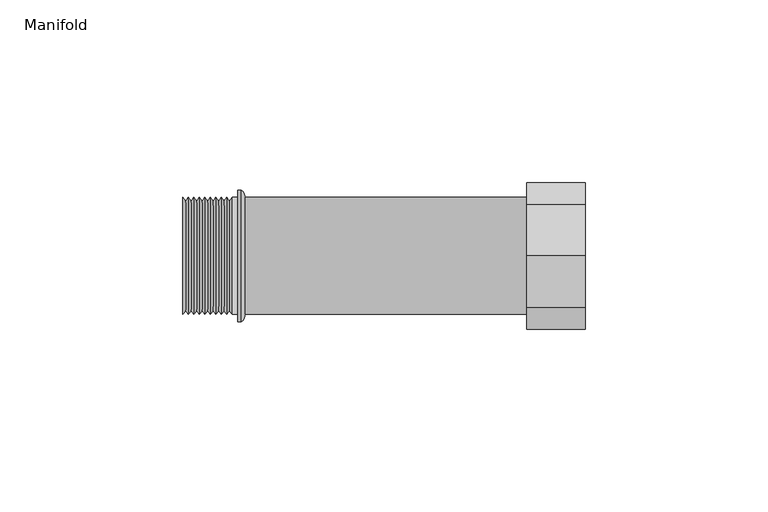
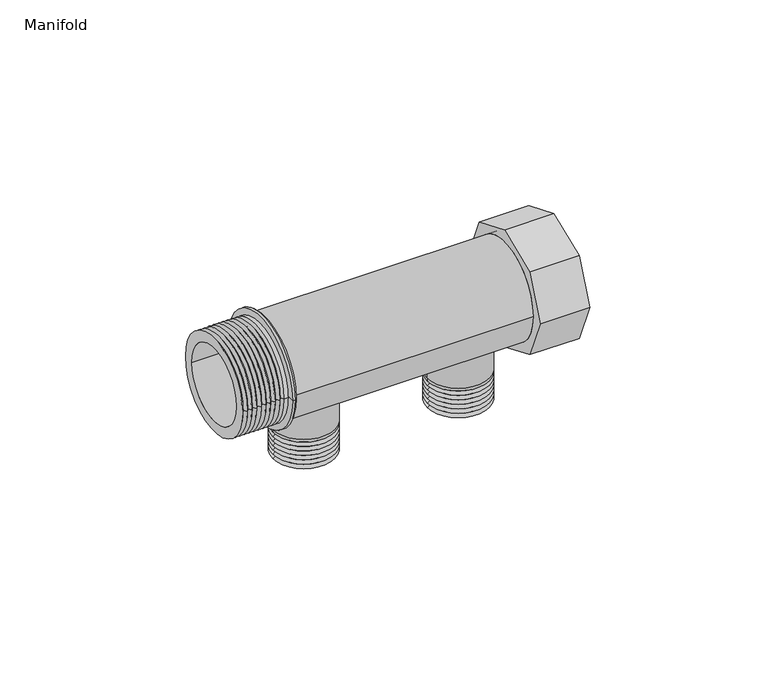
"""IFC4 building model written with IfcOpenShell, lengths in millimetres: valve geometry."""

from ifc_helpers import new_model, si_unit, point, frame, frame_2d, origin, origin_2d, place, context, project, spatial, polyline, circle_curve, ellipse_curve, trimmed, segment, composite_curve, outline, extrude, source, transform, mapped, element, save
from ifc_brep_helpers import plane_surface, cylinder_surface, revolved_surface, advanced_brep


def manifold_baea2700(model_context):
    return source(origin(), model_context, "Body", "SolidModel", [
        extrude(outline(composite_curve([segment(trimmed(circle_curve(frame_2d((79.0, 0.0)), 10.0), [point((69.0, 0.0))], [point((89.0, 0.0))], False, "CARTESIAN"), True, "CONTINUOUS"), segment(trimmed(circle_curve(frame_2d((79.0, 0.0)), 10.0), [point((89.0, 0.0))], [point((69.0, 0.0))], False, "CARTESIAN"), True, "CONTINUOUS")], self_intersect=False)), frame((0.0, 0.0, -22.0), z_axis=(0.0, 0.0, 1.0), x_axis=(1.0, 0.0, 0.0)), (0.0, 0.0, 1.0), 22.0),
        advanced_brep(
        [(69.0, 0.0, -32.0), (89.0, 0.0, -32.0), (79.0, 0.0, -32.0), (79.0, 0.0, -22.0), (89.0, 0.0, -22.0), (69.0, 0.0, -22.0), (70.0, 0.0, -31.2403523), (88.0, 0.0, -31.2403523), (69.0, 0.0, -30.4807046), (89.0, 0.0, -30.4807046), (70.0, 0.0, -29.721057), (88.0, 0.0, -29.721057), (69.0, 0.0, -28.9614093), (89.0, 0.0, -28.9614093), (70.0, 0.0, -28.2017616), (88.0, 0.0, -28.2017616), (69.0, 0.0, -27.4421139), (89.0, 0.0, -27.4421139), (70.0, 0.0, -26.6824663), (88.0, 0.0, -26.6824663), (69.0, 0.0, -25.9228186), (89.0, 0.0, -25.9228186), (70.0, 0.0, -25.1631709), (88.0, 0.0, -25.1631709), (69.0, 0.0, -24.4035232), (89.0, 0.0, -24.4035232), (70.0, 0.0, -23.6438756), (88.0, 0.0, -23.6438756), (69.0, 0.0, -22.8842279), (89.0, 0.0, -22.8842279)],
        [
            (0, 1, circle_curve(frame((79.0, 0.0, -32.0), z_axis=(0.0, 0.0, -1.0), x_axis=(1.0, 0.0, 0.0)), 10.0)),
            (1, 2),
            (2, 0),
            (1, 0, circle_curve(frame((79.0, 0.0, -32.0), z_axis=(0.0, 0.0, -1.0), x_axis=(1.0, 0.0, 0.0)), 10.0)),
            (3, 4),
            (4, 5, circle_curve(frame((79.0, 0.0, -22.0), z_axis=(0.0, 0.0, 1.0), x_axis=(1.0, 0.0, 0.0)), 10.0)),
            (5, 3),
            (5, 4, circle_curve(frame((79.0, 0.0, -22.0), z_axis=(0.0, 0.0, 1.0), x_axis=(1.0, 0.0, 0.0)), 10.0)),
            (6, 7, circle_curve(frame((79.0, 0.0, -31.2403523), z_axis=(0.0, 0.0, -1.0), x_axis=(1.0, 0.0, 0.0)), 9.0)),
            (7, 1),
            (0, 6),
            (7, 6, circle_curve(frame((79.0, 0.0, -31.2403523), z_axis=(0.0, 0.0, -1.0), x_axis=(1.0, 0.0, 0.0)), 9.0)),
            (8, 9, circle_curve(frame((79.0, 0.0, -30.4807046), z_axis=(0.0, 0.0, -1.0), x_axis=(1.0, 0.0, 0.0)), 10.0)),
            (9, 7),
            (6, 8),
            (9, 8, circle_curve(frame((79.0, 0.0, -30.4807046), z_axis=(0.0, 0.0, -1.0), x_axis=(1.0, 0.0, 0.0)), 10.0)),
            (10, 11, circle_curve(frame((79.0, 0.0, -29.721057), z_axis=(0.0, 0.0, -1.0), x_axis=(1.0, 0.0, 0.0)), 9.0)),
            (11, 9),
            (8, 10),
            (11, 10, circle_curve(frame((79.0, 0.0, -29.721057), z_axis=(0.0, 0.0, -1.0), x_axis=(1.0, 0.0, 0.0)), 9.0)),
            (12, 13, circle_curve(frame((79.0, 0.0, -28.9614093), z_axis=(0.0, 0.0, -1.0), x_axis=(1.0, 0.0, 0.0)), 10.0)),
            (13, 11),
            (10, 12),
            (13, 12, circle_curve(frame((79.0, 0.0, -28.9614093), z_axis=(0.0, 0.0, -1.0), x_axis=(1.0, 0.0, 0.0)), 10.0)),
            (14, 15, circle_curve(frame((79.0, 0.0, -28.2017616), z_axis=(0.0, 0.0, -1.0), x_axis=(1.0, 0.0, 0.0)), 9.0)),
            (15, 13),
            (12, 14),
            (15, 14, circle_curve(frame((79.0, 0.0, -28.2017616), z_axis=(0.0, 0.0, -1.0), x_axis=(1.0, 0.0, 0.0)), 9.0)),
            (16, 17, circle_curve(frame((79.0, 0.0, -27.4421139), z_axis=(0.0, 0.0, -1.0), x_axis=(1.0, 0.0, 0.0)), 10.0)),
            (17, 15),
            (14, 16),
            (17, 16, circle_curve(frame((79.0, 0.0, -27.4421139), z_axis=(0.0, 0.0, -1.0), x_axis=(1.0, 0.0, 0.0)), 10.0)),
            (18, 19, circle_curve(frame((79.0, 0.0, -26.6824663), z_axis=(0.0, 0.0, -1.0), x_axis=(1.0, 0.0, 0.0)), 9.0)),
            (19, 17),
            (16, 18),
            (19, 18, circle_curve(frame((79.0, 0.0, -26.6824663), z_axis=(0.0, 0.0, -1.0), x_axis=(1.0, 0.0, 0.0)), 9.0)),
            (20, 21, circle_curve(frame((79.0, 0.0, -25.9228186), z_axis=(0.0, 0.0, -1.0), x_axis=(1.0, 0.0, 0.0)), 10.0)),
            (21, 19),
            (18, 20),
            (21, 20, circle_curve(frame((79.0, 0.0, -25.9228186), z_axis=(0.0, 0.0, -1.0), x_axis=(1.0, 0.0, 0.0)), 10.0)),
            (22, 23, circle_curve(frame((79.0, 0.0, -25.1631709), z_axis=(0.0, 0.0, -1.0), x_axis=(1.0, 0.0, 0.0)), 9.0)),
            (23, 21),
            (20, 22),
            (23, 22, circle_curve(frame((79.0, 0.0, -25.1631709), z_axis=(0.0, 0.0, -1.0), x_axis=(1.0, 0.0, 0.0)), 9.0)),
            (24, 25, circle_curve(frame((79.0, 0.0, -24.4035232), z_axis=(0.0, 0.0, -1.0), x_axis=(1.0, 0.0, 0.0)), 10.0)),
            (25, 23),
            (22, 24),
            (25, 24, circle_curve(frame((79.0, 0.0, -24.4035232), z_axis=(0.0, 0.0, -1.0), x_axis=(1.0, 0.0, 0.0)), 10.0)),
            (26, 27, circle_curve(frame((79.0, 0.0, -23.6438756), z_axis=(0.0, 0.0, -1.0), x_axis=(1.0, 0.0, 0.0)), 9.0)),
            (27, 25),
            (24, 26),
            (27, 26, circle_curve(frame((79.0, 0.0, -23.6438756), z_axis=(0.0, 0.0, -1.0), x_axis=(1.0, 0.0, 0.0)), 9.0)),
            (28, 29, circle_curve(frame((79.0, 0.0, -22.8842279), z_axis=(0.0, 0.0, -1.0), x_axis=(1.0, 0.0, 0.0)), 10.0)),
            (29, 27),
            (26, 28),
            (29, 28, circle_curve(frame((79.0, 0.0, -22.8842279), z_axis=(0.0, 0.0, -1.0), x_axis=(1.0, 0.0, 0.0)), 10.0)),
            (4, 29),
            (28, 5),
        ],
        [
            plane_surface(frame((79.0, 0.0, -32.0), z_axis=(0.0, 0.0, -1.0), x_axis=(1.0, 0.0, 0.0))),
            plane_surface(frame((79.0, 0.0, -22.0), z_axis=(0.0, 0.0, 1.0), x_axis=(1.0, 0.0, 0.0))),
            revolved_surface(polyline([(89.0, 0.0, -32.0), (88.0, 0.0, -31.2403523)]), (79.0, 0.0, 2438.4), (0.0, 0.0, 1.0)),
            revolved_surface(polyline([(88.0, 0.0, -31.2403523), (89.0, 0.0, -30.4807046)]), (79.0, 0.0, 2438.4), (0.0, 0.0, 1.0)),
            revolved_surface(polyline([(89.0, 0.0, -30.4807046), (88.0, 0.0, -29.721057)]), (79.0, 0.0, 2438.4), (0.0, 0.0, 1.0)),
            revolved_surface(polyline([(88.0, 0.0, -29.721057), (89.0, 0.0, -28.9614093)]), (79.0, 0.0, 2438.4), (0.0, 0.0, 1.0)),
            revolved_surface(polyline([(89.0, 0.0, -28.9614093), (88.0, 0.0, -28.2017616)]), (79.0, 0.0, 2438.4), (0.0, 0.0, 1.0)),
            revolved_surface(polyline([(88.0, 0.0, -28.2017616), (89.0, 0.0, -27.4421139)]), (79.0, 0.0, 2438.4), (0.0, 0.0, 1.0)),
            revolved_surface(polyline([(89.0, 0.0, -27.4421139), (88.0, 0.0, -26.6824663)]), (79.0, 0.0, 2438.4), (0.0, 0.0, 1.0)),
            revolved_surface(polyline([(88.0, 0.0, -26.6824663), (89.0, 0.0, -25.9228186)]), (79.0, 0.0, 2438.4), (0.0, 0.0, 1.0)),
            revolved_surface(polyline([(89.0, 0.0, -25.9228186), (88.0, 0.0, -25.1631709)]), (79.0, 0.0, 2438.4), (0.0, 0.0, 1.0)),
            revolved_surface(polyline([(88.0, 0.0, -25.1631709), (89.0, 0.0, -24.4035232)]), (79.0, 0.0, 2438.4), (0.0, 0.0, 1.0)),
            revolved_surface(polyline([(89.0, 0.0, -24.4035232), (88.0, 0.0, -23.6438756)]), (79.0, 0.0, 2438.4), (0.0, 0.0, 1.0)),
            revolved_surface(polyline([(88.0, 0.0, -23.6438756), (89.0, 0.0, -22.8842279)]), (79.0, 0.0, 2438.4), (0.0, 0.0, 1.0)),
            cylinder_surface(frame((79.0, 0.0, 2438.4), z_axis=(0.0, 0.0, 1.0), x_axis=(1.0, 0.0, 0.0)), 10.0),
        ],
        [
            (0, [[1, 2, 3]]),
            (0, [[4, -3, -2]]),
            (1, [[5, 6, 7]]),
            (1, [[-7, 8, -5]]),
            (2, [[9, 10, -1, 11]]),
            (2, [[12, -11, -4, -10]]),
            (3, [[13, 14, -9, 15]]),
            (3, [[16, -15, -12, -14]]),
            (4, [[17, 18, -13, 19]]),
            (4, [[20, -19, -16, -18]]),
            (5, [[21, 22, -17, 23]]),
            (5, [[24, -23, -20, -22]]),
            (6, [[25, 26, -21, 27]]),
            (6, [[28, -27, -24, -26]]),
            (7, [[29, 30, -25, 31]]),
            (7, [[32, -31, -28, -30]]),
            (8, [[33, 34, -29, 35]]),
            (8, [[36, -35, -32, -34]]),
            (9, [[37, 38, -33, 39]]),
            (9, [[40, -39, -36, -38]]),
            (10, [[41, 42, -37, 43]]),
            (10, [[44, -43, -40, -42]]),
            (11, [[45, 46, -41, 47]]),
            (11, [[48, -47, -44, -46]]),
            (12, [[49, 50, -45, 51]]),
            (12, [[52, -51, -48, -50]]),
            (13, [[53, 54, -49, 55]]),
            (13, [[56, -55, -52, -54]]),
            (14, [[-6, 57, -53, 58]]),
            (14, [[-8, -58, -56, -57]]),
        ],
    ),
        extrude(outline(composite_curve([segment(trimmed(circle_curve(frame_2d((29.0, 0.0)), 10.0), [point((19.0, 0.0))], [point((39.0, 0.0))], False, "CARTESIAN"), True, "CONTINUOUS"), segment(trimmed(circle_curve(frame_2d((29.0, 0.0)), 10.0), [point((39.0, 0.0))], [point((19.0, 0.0))], False, "CARTESIAN"), True, "CONTINUOUS")], self_intersect=False)), frame((0.0, 0.0, -22.0), z_axis=(0.0, 0.0, 1.0), x_axis=(1.0, 0.0, 0.0)), (0.0, 0.0, 1.0), 22.0),
        advanced_brep(
        [(19.0, 0.0, -32.0), (39.0, 0.0, -32.0), (29.0, 0.0, -32.0), (29.0, 0.0, -22.0), (39.0, 0.0, -22.0), (19.0, 0.0, -22.0), (20.0, 0.0, -31.2403523), (38.0, 0.0, -31.2403523), (19.0, 0.0, -30.4807046), (39.0, 0.0, -30.4807046), (20.0, 0.0, -29.721057), (38.0, 0.0, -29.721057), (19.0, 0.0, -28.9614093), (39.0, 0.0, -28.9614093), (20.0, 0.0, -28.2017616), (38.0, 0.0, -28.2017616), (19.0, 0.0, -27.4421139), (39.0, 0.0, -27.4421139), (20.0, 0.0, -26.6824663), (38.0, 0.0, -26.6824663), (19.0, 0.0, -25.9228186), (39.0, 0.0, -25.9228186), (20.0, 0.0, -25.1631709), (38.0, 0.0, -25.1631709), (19.0, 0.0, -24.4035232), (39.0, 0.0, -24.4035232), (20.0, 0.0, -23.6438756), (38.0, 0.0, -23.6438756), (19.0, 0.0, -22.8842279), (39.0, 0.0, -22.8842279)],
        [
            (0, 1, circle_curve(frame((29.0, 0.0, -32.0), z_axis=(0.0, 0.0, -1.0), x_axis=(1.0, 0.0, 0.0)), 10.0)),
            (1, 2),
            (2, 0),
            (1, 0, circle_curve(frame((29.0, 0.0, -32.0), z_axis=(0.0, 0.0, -1.0), x_axis=(1.0, 0.0, 0.0)), 10.0)),
            (3, 4),
            (4, 5, circle_curve(frame((29.0, 0.0, -22.0), z_axis=(0.0, 0.0, 1.0), x_axis=(1.0, 0.0, 0.0)), 10.0)),
            (5, 3),
            (5, 4, circle_curve(frame((29.0, 0.0, -22.0), z_axis=(0.0, 0.0, 1.0), x_axis=(1.0, 0.0, 0.0)), 10.0)),
            (6, 7, circle_curve(frame((29.0, 0.0, -31.2403523), z_axis=(0.0, 0.0, -1.0), x_axis=(1.0, 0.0, 0.0)), 9.0)),
            (7, 1),
            (0, 6),
            (7, 6, circle_curve(frame((29.0, 0.0, -31.2403523), z_axis=(0.0, 0.0, -1.0), x_axis=(1.0, 0.0, 0.0)), 9.0)),
            (8, 9, circle_curve(frame((29.0, 0.0, -30.4807046), z_axis=(0.0, 0.0, -1.0), x_axis=(1.0, 0.0, 0.0)), 10.0)),
            (9, 7),
            (6, 8),
            (9, 8, circle_curve(frame((29.0, 0.0, -30.4807046), z_axis=(0.0, 0.0, -1.0), x_axis=(1.0, 0.0, 0.0)), 10.0)),
            (10, 11, circle_curve(frame((29.0, 0.0, -29.721057), z_axis=(0.0, 0.0, -1.0), x_axis=(1.0, 0.0, 0.0)), 9.0)),
            (11, 9),
            (8, 10),
            (11, 10, circle_curve(frame((29.0, 0.0, -29.721057), z_axis=(0.0, 0.0, -1.0), x_axis=(1.0, 0.0, 0.0)), 9.0)),
            (12, 13, circle_curve(frame((29.0, 0.0, -28.9614093), z_axis=(0.0, 0.0, -1.0), x_axis=(1.0, 0.0, 0.0)), 10.0)),
            (13, 11),
            (10, 12),
            (13, 12, circle_curve(frame((29.0, 0.0, -28.9614093), z_axis=(0.0, 0.0, -1.0), x_axis=(1.0, 0.0, 0.0)), 10.0)),
            (14, 15, circle_curve(frame((29.0, 0.0, -28.2017616), z_axis=(0.0, 0.0, -1.0), x_axis=(1.0, 0.0, 0.0)), 9.0)),
            (15, 13),
            (12, 14),
            (15, 14, circle_curve(frame((29.0, 0.0, -28.2017616), z_axis=(0.0, 0.0, -1.0), x_axis=(1.0, 0.0, 0.0)), 9.0)),
            (16, 17, circle_curve(frame((29.0, 0.0, -27.4421139), z_axis=(0.0, 0.0, -1.0), x_axis=(1.0, 0.0, 0.0)), 10.0)),
            (17, 15),
            (14, 16),
            (17, 16, circle_curve(frame((29.0, 0.0, -27.4421139), z_axis=(0.0, 0.0, -1.0), x_axis=(1.0, 0.0, 0.0)), 10.0)),
            (18, 19, circle_curve(frame((29.0, 0.0, -26.6824663), z_axis=(0.0, 0.0, -1.0), x_axis=(1.0, 0.0, 0.0)), 9.0)),
            (19, 17),
            (16, 18),
            (19, 18, circle_curve(frame((29.0, 0.0, -26.6824663), z_axis=(0.0, 0.0, -1.0), x_axis=(1.0, 0.0, 0.0)), 9.0)),
            (20, 21, circle_curve(frame((29.0, 0.0, -25.9228186), z_axis=(0.0, 0.0, -1.0), x_axis=(1.0, 0.0, 0.0)), 10.0)),
            (21, 19),
            (18, 20),
            (21, 20, circle_curve(frame((29.0, 0.0, -25.9228186), z_axis=(0.0, 0.0, -1.0), x_axis=(1.0, 0.0, 0.0)), 10.0)),
            (22, 23, circle_curve(frame((29.0, 0.0, -25.1631709), z_axis=(0.0, 0.0, -1.0), x_axis=(1.0, 0.0, 0.0)), 9.0)),
            (23, 21),
            (20, 22),
            (23, 22, circle_curve(frame((29.0, 0.0, -25.1631709), z_axis=(0.0, 0.0, -1.0), x_axis=(1.0, 0.0, 0.0)), 9.0)),
            (24, 25, circle_curve(frame((29.0, 0.0, -24.4035232), z_axis=(0.0, 0.0, -1.0), x_axis=(1.0, 0.0, 0.0)), 10.0)),
            (25, 23),
            (22, 24),
            (25, 24, circle_curve(frame((29.0, 0.0, -24.4035232), z_axis=(0.0, 0.0, -1.0), x_axis=(1.0, 0.0, 0.0)), 10.0)),
            (26, 27, circle_curve(frame((29.0, 0.0, -23.6438756), z_axis=(0.0, 0.0, -1.0), x_axis=(1.0, 0.0, 0.0)), 9.0)),
            (27, 25),
            (24, 26),
            (27, 26, circle_curve(frame((29.0, 0.0, -23.6438756), z_axis=(0.0, 0.0, -1.0), x_axis=(1.0, 0.0, 0.0)), 9.0)),
            (28, 29, circle_curve(frame((29.0, 0.0, -22.8842279), z_axis=(0.0, 0.0, -1.0), x_axis=(1.0, 0.0, 0.0)), 10.0)),
            (29, 27),
            (26, 28),
            (29, 28, circle_curve(frame((29.0, 0.0, -22.8842279), z_axis=(0.0, 0.0, -1.0), x_axis=(1.0, 0.0, 0.0)), 10.0)),
            (4, 29),
            (28, 5),
        ],
        [
            plane_surface(frame((29.0, 0.0, -32.0), z_axis=(0.0, 0.0, -1.0), x_axis=(1.0, 0.0, 0.0))),
            plane_surface(frame((29.0, 0.0, -22.0), z_axis=(0.0, 0.0, 1.0), x_axis=(1.0, 0.0, 0.0))),
            revolved_surface(polyline([(39.0, 0.0, -32.0), (38.0, 0.0, -31.2403523)]), (29.0, 0.0, 2438.4), (0.0, 0.0, 1.0)),
            revolved_surface(polyline([(38.0, 0.0, -31.2403523), (39.0, 0.0, -30.4807046)]), (29.0, 0.0, 2438.4), (0.0, 0.0, 1.0)),
            revolved_surface(polyline([(39.0, 0.0, -30.4807046), (38.0, 0.0, -29.721057)]), (29.0, 0.0, 2438.4), (0.0, 0.0, 1.0)),
            revolved_surface(polyline([(38.0, 0.0, -29.721057), (39.0, 0.0, -28.9614093)]), (29.0, 0.0, 2438.4), (0.0, 0.0, 1.0)),
            revolved_surface(polyline([(39.0, 0.0, -28.9614093), (38.0, 0.0, -28.2017616)]), (29.0, 0.0, 2438.4), (0.0, 0.0, 1.0)),
            revolved_surface(polyline([(38.0, 0.0, -28.2017616), (39.0, 0.0, -27.4421139)]), (29.0, 0.0, 2438.4), (0.0, 0.0, 1.0)),
            revolved_surface(polyline([(39.0, 0.0, -27.4421139), (38.0, 0.0, -26.6824663)]), (29.0, 0.0, 2438.4), (0.0, 0.0, 1.0)),
            revolved_surface(polyline([(38.0, 0.0, -26.6824663), (39.0, 0.0, -25.9228186)]), (29.0, 0.0, 2438.4), (0.0, 0.0, 1.0)),
            revolved_surface(polyline([(39.0, 0.0, -25.9228186), (38.0, 0.0, -25.1631709)]), (29.0, 0.0, 2438.4), (0.0, 0.0, 1.0)),
            revolved_surface(polyline([(38.0, 0.0, -25.1631709), (39.0, 0.0, -24.4035232)]), (29.0, 0.0, 2438.4), (0.0, 0.0, 1.0)),
            revolved_surface(polyline([(39.0, 0.0, -24.4035232), (38.0, 0.0, -23.6438756)]), (29.0, 0.0, 2438.4), (0.0, 0.0, 1.0)),
            revolved_surface(polyline([(38.0, 0.0, -23.6438756), (39.0, 0.0, -22.8842279)]), (29.0, 0.0, 2438.4), (0.0, 0.0, 1.0)),
            cylinder_surface(frame((29.0, 0.0, 2438.4), z_axis=(0.0, 0.0, 1.0), x_axis=(1.0, 0.0, 0.0)), 10.0),
        ],
        [
            (0, [[1, 2, 3]]),
            (0, [[4, -3, -2]]),
            (1, [[5, 6, 7]]),
            (1, [[-7, 8, -5]]),
            (2, [[9, 10, -1, 11]]),
            (2, [[12, -11, -4, -10]]),
            (3, [[13, 14, -9, 15]]),
            (3, [[16, -15, -12, -14]]),
            (4, [[17, 18, -13, 19]]),
            (4, [[20, -19, -16, -18]]),
            (5, [[21, 22, -17, 23]]),
            (5, [[24, -23, -20, -22]]),
            (6, [[25, 26, -21, 27]]),
            (6, [[28, -27, -24, -26]]),
            (7, [[29, 30, -25, 31]]),
            (7, [[32, -31, -28, -30]]),
            (8, [[33, 34, -29, 35]]),
            (8, [[36, -35, -32, -34]]),
            (9, [[37, 38, -33, 39]]),
            (9, [[40, -39, -36, -38]]),
            (10, [[41, 42, -37, 43]]),
            (10, [[44, -43, -40, -42]]),
            (11, [[45, 46, -41, 47]]),
            (11, [[48, -47, -44, -46]]),
            (12, [[49, 50, -45, 51]]),
            (12, [[52, -51, -48, -50]]),
            (13, [[53, 54, -49, 55]]),
            (13, [[56, -55, -52, -54]]),
            (14, [[-6, 57, -53, 58]]),
            (14, [[-8, -58, -56, -57]]),
        ],
    ),
        advanced_brep(
        [(15.0, 0.0, 0.0), (15.0, 18.0, 0.0), (15.0, -18.0, 0.0), (17.0, -16.0, 0.0), (17.0, 16.0, 0.0), (17.0, 0.0, 0.0), (16.0, -18.0, 0.0), (16.0, 18.0, 0.0)],
        [
            (0, 1),
            (1, 2, circle_curve(frame((15.0, 0.0, 0.0), z_axis=(-1.0, 0.0, 0.0), x_axis=(0.0, 1.0, 0.0)), 18.0)),
            (2, 0),
            (2, 1, circle_curve(frame((15.0, 0.0, 0.0), z_axis=(-1.0, 0.0, 0.0), x_axis=(0.0, 1.0, 0.0)), 18.0)),
            (3, 4, circle_curve(frame((17.0, 0.0, 0.0), z_axis=(1.0, 0.0, 0.0), x_axis=(0.0, 1.0, 0.0)), 16.0)),
            (4, 5),
            (5, 3),
            (4, 3, circle_curve(frame((17.0, 0.0, 0.0), z_axis=(1.0, 0.0, 0.0), x_axis=(0.0, 1.0, 0.0)), 16.0)),
            (6, 7, circle_curve(frame((16.0, 0.0, 0.0), z_axis=(1.0, 0.0, 0.0), x_axis=(0.0, 1.0, 0.0)), 18.0)),
            (7, 4, circle_curve(frame((14.5, 16.0, 0.0), z_axis=(0.0, 0.0, -1.0), x_axis=(1.0, 0.0, 0.0)), 2.5)),
            (3, 6, circle_curve(frame((14.5, -16.0, 0.0), z_axis=(0.0, 0.0, -1.0), x_axis=(1.0, 0.0, 0.0)), 2.5)),
            (7, 6, circle_curve(frame((16.0, 0.0, 0.0), z_axis=(1.0, 0.0, 0.0), x_axis=(0.0, 1.0, 0.0)), 18.0)),
            (1, 7),
            (6, 2),
        ],
        [
            plane_surface(frame((15.0, 0.0, 0.0), z_axis=(-1.0, 0.0, 0.0), x_axis=(0.0, 1.0, 0.0))),
            plane_surface(frame((17.0, 0.0, 0.0), z_axis=(1.0, 0.0, 0.0), x_axis=(0.0, 1.0, 0.0))),
            revolved_surface(trimmed(ellipse_curve(frame((14.5, 16.0, 0.0), z_axis=(0.0, 0.0, 1.0), x_axis=(1.0, 0.0, 0.0)), 2.5, 2.5), [point((17.0, 16.0, 0.0))], [point((16.0, 18.0, 0.0))], True, "CARTESIAN"), (1945.0, 0.0, 0.0), (-1.0, 0.0, 0.0)),
            cylinder_surface(frame((1945.0, 0.0, 0.0), z_axis=(-1.0, 0.0, 0.0), x_axis=(0.0, 1.0, 0.0)), 18.0),
        ],
        [
            (0, [[1, 2, 3]]),
            (0, [[-3, 4, -1]]),
            (1, [[5, 6, 7]]),
            (1, [[8, -7, -6]]),
            (2, [[9, 10, -5, 11]]),
            (2, [[12, -11, -8, -10]]),
            (3, [[-2, 13, -9, 14]]),
            (3, [[-4, -14, -12, -13]]),
        ],
    ),
        extrude(outline(polyline([(14.1345348, 14.1350965), (19.9895913, -0.0002604), (14.1345348, -14.1356172), (-0.000822, -19.9906737), (-14.1361789, -14.1356172), (-19.9912354, -0.0002604), (-14.1361789, 14.1350965), (-0.000822, 19.990153), (14.1345348, 14.1350965)]), holes=[composite_curve([segment(trimmed(circle_curve(origin_2d(), 16.0), [point((16.0, 0.0))], [point((-16.0, 0.0))], True, "CARTESIAN"), True, "CONTINUOUS"), segment(trimmed(circle_curve(origin_2d(), 16.0), [point((-16.0, 0.0))], [point((16.0, 0.0))], True, "CARTESIAN"), True, "CONTINUOUS")], self_intersect=False)]), frame((94.0, 0.0, 0.0), z_axis=(1.0, 0.0, 0.0), x_axis=(0.0, 1.0, 0.0)), (0.0, 0.0, 1.0), 16.0),
        advanced_brep(
        [(15.0, -16.0, 0.0), (15.0, 16.0, 0.0), (15.0, -12.5, 0.0), (15.0, 12.5, 0.0), (0.0, 16.0, 0.0), (0.0, -16.0, 0.0), (0.0, -12.5, 0.0), (0.0, 12.5, 0.0), (13.5, -16.0, 0.0), (13.5, 16.0, 0.0), (0.75, -15.0, 0.0), (0.75, 15.0, 0.0), (1.5, 16.0, 0.0), (1.5, -16.0, 0.0), (2.25, -15.0, 0.0), (2.25, 15.0, 0.0), (3.0, 16.0, 0.0), (3.0, -16.0, 0.0), (3.75, -15.0, 0.0), (3.75, 15.0, 0.0), (4.5, 16.0, 0.0), (4.5, -16.0, 0.0), (5.25, -15.0, 0.0), (5.25, 15.0, 0.0), (6.0, 16.0, 0.0), (6.0, -16.0, 0.0), (6.75, -15.0, 0.0), (6.75, 15.0, 0.0), (7.5, 16.0, 0.0), (7.5, -16.0, 0.0), (8.25, -15.0, 0.0), (8.25, 15.0, 0.0), (9.0, 16.0, 0.0), (9.0, -16.0, 0.0), (9.75, -15.0, 0.0), (9.75, 15.0, 0.0), (10.5, 16.0, 0.0), (10.5, -16.0, 0.0), (11.25, -15.0, 0.0), (11.25, 15.0, 0.0), (12.0, 16.0, 0.0), (12.0, -16.0, 0.0), (12.75, -15.0, 0.0), (12.75, 15.0, 0.0)],
        [
            (0, 1, circle_curve(frame((15.0, 0.0, 0.0), z_axis=(1.0, 0.0, 0.0), x_axis=(0.0, 1.0, 0.0)), 16.0)),
            (1, 0, circle_curve(frame((15.0, 0.0, 0.0), z_axis=(1.0, 0.0, 0.0), x_axis=(0.0, 1.0, 0.0)), 16.0)),
            (2, 3, circle_curve(frame((15.0, 0.0, 0.0), z_axis=(-1.0, 0.0, 0.0), x_axis=(0.0, 1.0, 0.0)), 12.5)),
            (3, 2, circle_curve(frame((15.0, 0.0, 0.0), z_axis=(-1.0, 0.0, 0.0), x_axis=(0.0, 1.0, 0.0)), 12.5)),
            (4, 5, circle_curve(frame((0.0, 0.0, 0.0), z_axis=(-1.0, 0.0, 0.0), x_axis=(0.0, 1.0, 0.0)), 16.0)),
            (5, 4, circle_curve(frame((0.0, 0.0, 0.0), z_axis=(-1.0, 0.0, 0.0), x_axis=(0.0, 1.0, 0.0)), 16.0)),
            (6, 7, circle_curve(frame((0.0, 0.0, 0.0), z_axis=(1.0, 0.0, 0.0), x_axis=(0.0, 1.0, 0.0)), 12.5)),
            (7, 6, circle_curve(frame((0.0, 0.0, 0.0), z_axis=(1.0, 0.0, 0.0), x_axis=(0.0, 1.0, 0.0)), 12.5)),
            (0, 8),
            (8, 9, circle_curve(frame((13.5, 0.0, 0.0), z_axis=(1.0, 0.0, 0.0), x_axis=(0.0, 1.0, 0.0)), 16.0)),
            (9, 1),
            (9, 8, circle_curve(frame((13.5, 0.0, 0.0), z_axis=(1.0, 0.0, 0.0), x_axis=(0.0, 1.0, 0.0)), 16.0)),
            (2, 6),
            (7, 3),
            (10, 5),
            (4, 11),
            (11, 10, circle_curve(frame((0.75, 0.0, 0.0), z_axis=(-1.0, 0.0, 0.0), x_axis=(0.0, 1.0, 0.0)), 15.0)),
            (10, 11, circle_curve(frame((0.75, 0.0, 0.0), z_axis=(-1.0, 0.0, 0.0), x_axis=(0.0, 1.0, 0.0)), 15.0)),
            (11, 12),
            (12, 13, circle_curve(frame((1.5, 0.0, 0.0), z_axis=(-1.0, 0.0, 0.0), x_axis=(0.0, 1.0, 0.0)), 16.0)),
            (13, 10),
            (13, 12, circle_curve(frame((1.5, 0.0, 0.0), z_axis=(-1.0, 0.0, 0.0), x_axis=(0.0, 1.0, 0.0)), 16.0)),
            (14, 13),
            (12, 15),
            (15, 14, circle_curve(frame((2.25, 0.0, 0.0), z_axis=(-1.0, 0.0, 0.0), x_axis=(0.0, 1.0, 0.0)), 15.0)),
            (14, 15, circle_curve(frame((2.25, 0.0, 0.0), z_axis=(-1.0, 0.0, 0.0), x_axis=(0.0, 1.0, 0.0)), 15.0)),
            (15, 16),
            (16, 17, circle_curve(frame((3.0, 0.0, 0.0), z_axis=(-1.0, 0.0, 0.0), x_axis=(0.0, 1.0, 0.0)), 16.0)),
            (17, 14),
            (17, 16, circle_curve(frame((3.0, 0.0, 0.0), z_axis=(-1.0, 0.0, 0.0), x_axis=(0.0, 1.0, 0.0)), 16.0)),
            (18, 17),
            (16, 19),
            (19, 18, circle_curve(frame((3.75, 0.0, 0.0), z_axis=(-1.0, 0.0, 0.0), x_axis=(0.0, 1.0, 0.0)), 15.0)),
            (18, 19, circle_curve(frame((3.75, 0.0, 0.0), z_axis=(-1.0, 0.0, 0.0), x_axis=(0.0, 1.0, 0.0)), 15.0)),
            (19, 20),
            (20, 21, circle_curve(frame((4.5, 0.0, 0.0), z_axis=(-1.0, 0.0, 0.0), x_axis=(0.0, 1.0, 0.0)), 16.0)),
            (21, 18),
            (21, 20, circle_curve(frame((4.5, 0.0, 0.0), z_axis=(-1.0, 0.0, 0.0), x_axis=(0.0, 1.0, 0.0)), 16.0)),
            (22, 21),
            (20, 23),
            (23, 22, circle_curve(frame((5.25, 0.0, 0.0), z_axis=(-1.0, 0.0, 0.0), x_axis=(0.0, 1.0, 0.0)), 15.0)),
            (22, 23, circle_curve(frame((5.25, 0.0, 0.0), z_axis=(-1.0, 0.0, 0.0), x_axis=(0.0, 1.0, 0.0)), 15.0)),
            (23, 24),
            (24, 25, circle_curve(frame((6.0, 0.0, 0.0), z_axis=(-1.0, 0.0, 0.0), x_axis=(0.0, 1.0, 0.0)), 16.0)),
            (25, 22),
            (25, 24, circle_curve(frame((6.0, 0.0, 0.0), z_axis=(-1.0, 0.0, 0.0), x_axis=(0.0, 1.0, 0.0)), 16.0)),
            (26, 25),
            (24, 27),
            (27, 26, circle_curve(frame((6.75, 0.0, 0.0), z_axis=(-1.0, 0.0, 0.0), x_axis=(0.0, 1.0, 0.0)), 15.0)),
            (26, 27, circle_curve(frame((6.75, 0.0, 0.0), z_axis=(-1.0, 0.0, 0.0), x_axis=(0.0, 1.0, 0.0)), 15.0)),
            (27, 28),
            (28, 29, circle_curve(frame((7.5, 0.0, 0.0), z_axis=(-1.0, 0.0, 0.0), x_axis=(0.0, 1.0, 0.0)), 16.0)),
            (29, 26),
            (29, 28, circle_curve(frame((7.5, 0.0, 0.0), z_axis=(-1.0, 0.0, 0.0), x_axis=(0.0, 1.0, 0.0)), 16.0)),
            (30, 29),
            (28, 31),
            (31, 30, circle_curve(frame((8.25, 0.0, 0.0), z_axis=(-1.0, 0.0, 0.0), x_axis=(0.0, 1.0, 0.0)), 15.0)),
            (30, 31, circle_curve(frame((8.25, 0.0, 0.0), z_axis=(-1.0, 0.0, 0.0), x_axis=(0.0, 1.0, 0.0)), 15.0)),
            (31, 32),
            (32, 33, circle_curve(frame((9.0, 0.0, 0.0), z_axis=(-1.0, 0.0, 0.0), x_axis=(0.0, 1.0, 0.0)), 16.0)),
            (33, 30),
            (33, 32, circle_curve(frame((9.0, 0.0, 0.0), z_axis=(-1.0, 0.0, 0.0), x_axis=(0.0, 1.0, 0.0)), 16.0)),
            (34, 33),
            (32, 35),
            (35, 34, circle_curve(frame((9.75, 0.0, 0.0), z_axis=(-1.0, 0.0, 0.0), x_axis=(0.0, 1.0, 0.0)), 15.0)),
            (34, 35, circle_curve(frame((9.75, 0.0, 0.0), z_axis=(-1.0, 0.0, 0.0), x_axis=(0.0, 1.0, 0.0)), 15.0)),
            (35, 36),
            (36, 37, circle_curve(frame((10.5, 0.0, 0.0), z_axis=(-1.0, 0.0, 0.0), x_axis=(0.0, 1.0, 0.0)), 16.0)),
            (37, 34),
            (37, 36, circle_curve(frame((10.5, 0.0, 0.0), z_axis=(-1.0, 0.0, 0.0), x_axis=(0.0, 1.0, 0.0)), 16.0)),
            (38, 37),
            (36, 39),
            (39, 38, circle_curve(frame((11.25, 0.0, 0.0), z_axis=(-1.0, 0.0, 0.0), x_axis=(0.0, 1.0, 0.0)), 15.0)),
            (38, 39, circle_curve(frame((11.25, 0.0, 0.0), z_axis=(-1.0, 0.0, 0.0), x_axis=(0.0, 1.0, 0.0)), 15.0)),
            (39, 40),
            (40, 41, circle_curve(frame((12.0, 0.0, 0.0), z_axis=(-1.0, 0.0, 0.0), x_axis=(0.0, 1.0, 0.0)), 16.0)),
            (41, 38),
            (41, 40, circle_curve(frame((12.0, 0.0, 0.0), z_axis=(-1.0, 0.0, 0.0), x_axis=(0.0, 1.0, 0.0)), 16.0)),
            (42, 41),
            (40, 43),
            (43, 42, circle_curve(frame((12.75, 0.0, 0.0), z_axis=(-1.0, 0.0, 0.0), x_axis=(0.0, 1.0, 0.0)), 15.0)),
            (42, 43, circle_curve(frame((12.75, 0.0, 0.0), z_axis=(-1.0, 0.0, 0.0), x_axis=(0.0, 1.0, 0.0)), 15.0)),
            (43, 9),
            (8, 42),
        ],
        [
            plane_surface(frame((15.0, 16.0, 0.0), z_axis=(1.0, 0.0, 0.0), x_axis=(0.0, 0.0, 1.0))),
            plane_surface(frame((0.0, 16.0, 0.0), z_axis=(-1.0, 0.0, 0.0), x_axis=(0.0, 0.0, -1.0))),
            cylinder_surface(frame((0.0, 0.0, 0.0), z_axis=(1.0, 0.0, 0.0), x_axis=(0.0, 1.0, 0.0)), 16.0),
            revolved_surface(polyline([(0.0, 12.5, 0.0), (15.0, 12.5, 0.0)]), (0.0, 0.0, 0.0), (-1.0, 0.0, 0.0)),
            revolved_surface(polyline([(0.75, 15.0, 0.0), (0.0, 16.0, 0.0)]), (2000.0, 0.0, 0.0), (-1.0, 0.0, 0.0)),
            revolved_surface(polyline([(1.5, 16.0, 0.0), (0.75, 15.0, 0.0)]), (2000.0, 0.0, 0.0), (-1.0, 0.0, 0.0)),
            revolved_surface(polyline([(2.25, 15.0, 0.0), (1.5, 16.0, 0.0)]), (2001.5, 0.0, 0.0), (-1.0, 0.0, 0.0)),
            revolved_surface(polyline([(3.0, 16.0, 0.0), (2.25, 15.0, 0.0)]), (2001.5, 0.0, 0.0), (-1.0, 0.0, 0.0)),
            revolved_surface(polyline([(3.75, 15.0, 0.0), (3.0, 16.0, 0.0)]), (2003.0, 0.0, 0.0), (-1.0, 0.0, 0.0)),
            revolved_surface(polyline([(4.5, 16.0, 0.0), (3.75, 15.0, 0.0)]), (2003.0, 0.0, 0.0), (-1.0, 0.0, 0.0)),
            revolved_surface(polyline([(5.25, 15.0, 0.0), (4.5, 16.0, 0.0)]), (2004.5, 0.0, 0.0), (-1.0, 0.0, 0.0)),
            revolved_surface(polyline([(6.0, 16.0, 0.0), (5.25, 15.0, 0.0)]), (2004.5, 0.0, 0.0), (-1.0, 0.0, 0.0)),
            revolved_surface(polyline([(6.75, 15.0, 0.0), (6.0, 16.0, 0.0)]), (2006.0, 0.0, 0.0), (-1.0, 0.0, 0.0)),
            revolved_surface(polyline([(7.5, 16.0, 0.0), (6.75, 15.0, 0.0)]), (2006.0, 0.0, 0.0), (-1.0, 0.0, 0.0)),
            revolved_surface(polyline([(8.25, 15.0, 0.0), (7.5, 16.0, 0.0)]), (2007.5, 0.0, 0.0), (-1.0, 0.0, 0.0)),
            revolved_surface(polyline([(9.0, 16.0, 0.0), (8.25, 15.0, 0.0)]), (2007.5, 0.0, 0.0), (-1.0, 0.0, 0.0)),
            revolved_surface(polyline([(9.75, 15.0, 0.0), (9.0, 16.0, 0.0)]), (2009.0, 0.0, 0.0), (-1.0, 0.0, 0.0)),
            revolved_surface(polyline([(10.5, 16.0, 0.0), (9.75, 15.0, 0.0)]), (2009.0, 0.0, 0.0), (-1.0, 0.0, 0.0)),
            revolved_surface(polyline([(11.25, 15.0, 0.0), (10.5, 16.0, 0.0)]), (2010.5, 0.0, 0.0), (-1.0, 0.0, 0.0)),
            revolved_surface(polyline([(12.0, 16.0, 0.0), (11.25, 15.0, 0.0)]), (2010.5, 0.0, 0.0), (-1.0, 0.0, 0.0)),
            revolved_surface(polyline([(12.75, 15.0, 0.0), (12.0, 16.0, 0.0)]), (2012.0, 0.0, 0.0), (-1.0, 0.0, 0.0)),
            revolved_surface(polyline([(13.5, 16.0, 0.0), (12.75, 15.0, 0.0)]), (2012.0, 0.0, 0.0), (-1.0, 0.0, 0.0)),
        ],
        [
            (0, [[1, 2], [3, 4]]),
            (1, [[5, 6], [7, 8]]),
            (2, [[-1, 9, 10, 11]]),
            (2, [[-2, -11, 12, -9]]),
            (3, [[-3, 13, -8, 14]]),
            (3, [[-4, -14, -7, -13]]),
            (4, [[15, -5, 16, 17]]),
            (4, [[-15, 18, -16, -6]]),
            (5, [[-17, 19, 20, 21]]),
            (5, [[-18, -21, 22, -19]]),
            (6, [[23, -20, 24, 25]]),
            (6, [[-23, 26, -24, -22]]),
            (7, [[-25, 27, 28, 29]]),
            (7, [[-26, -29, 30, -27]]),
            (8, [[31, -28, 32, 33]]),
            (8, [[-31, 34, -32, -30]]),
            (9, [[-33, 35, 36, 37]]),
            (9, [[-34, -37, 38, -35]]),
            (10, [[39, -36, 40, 41]]),
            (10, [[-39, 42, -40, -38]]),
            (11, [[-41, 43, 44, 45]]),
            (11, [[-42, -45, 46, -43]]),
            (12, [[47, -44, 48, 49]]),
            (12, [[-47, 50, -48, -46]]),
            (13, [[-49, 51, 52, 53]]),
            (13, [[-50, -53, 54, -51]]),
            (14, [[55, -52, 56, 57]]),
            (14, [[-55, 58, -56, -54]]),
            (15, [[-57, 59, 60, 61]]),
            (15, [[-58, -61, 62, -59]]),
            (16, [[63, -60, 64, 65]]),
            (16, [[-63, 66, -64, -62]]),
            (17, [[-65, 67, 68, 69]]),
            (17, [[-66, -69, 70, -67]]),
            (18, [[71, -68, 72, 73]]),
            (18, [[-71, 74, -72, -70]]),
            (19, [[-73, 75, 76, 77]]),
            (19, [[-74, -77, 78, -75]]),
            (20, [[79, -76, 80, 81]]),
            (20, [[-79, 82, -80, -78]]),
            (21, [[-81, 83, -10, 84]]),
            (21, [[-82, -84, -12, -83]]),
        ],
    ),
        extrude(outline(composite_curve([segment(trimmed(circle_curve(origin_2d(), 16.0), [point((-16.0, 0.0))], [point((16.0, 0.0))], False, "CARTESIAN"), True, "CONTINUOUS"), segment(trimmed(circle_curve(origin_2d(), 16.0), [point((16.0, 0.0))], [point((-16.0, 0.0))], False, "CARTESIAN"), True, "CONTINUOUS")], self_intersect=False)), frame((15.0, 0.0, 0.0), z_axis=(1.0, 0.0, 0.0), x_axis=(0.0, 1.0, 0.0)), (0.0, 0.0, 1.0), 79.0),
    ])


if __name__ == "__main__":
    model = new_model("IFC4")
    model_context = context("Model", 3, world=origin())
    ifc_project = project(units=[si_unit("LENGTHUNIT", "METRE", prefix="MILLI")], contexts=[model_context])
    site = spatial("IfcSite", under=ifc_project)
    building = spatial("IfcBuilding", under=site)
    placement = place(None, origin())
    manifold_shape = manifold_baea2700(model_context)
    element("IfcValve", 1, ObjectType="Manifold : Superpipe Manifold 2 way- 1\"MT/FT x 1/2\"MT Outlets", at=placement, inside=building, context=model_context, shape_type="MappedRepresentation", body=[
        mapped(manifold_shape, transform((0.0, 0.0, 0.0), x_axis=(1.0, 0.0, 0.0), y_axis=(0.0, 1.0, 0.0), z_axis=(0.0, 0.0, 1.0))),
    ])
    save(model, "model.ifc")
